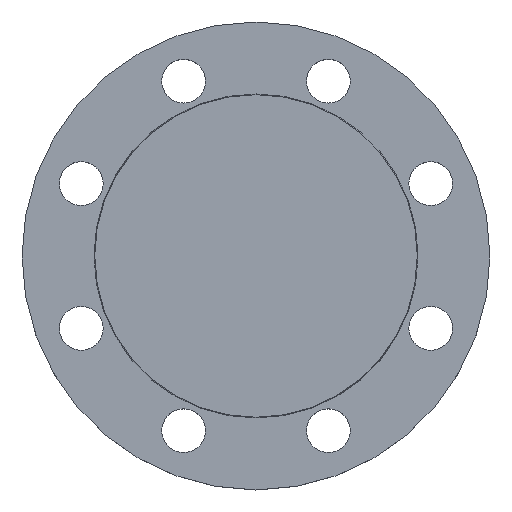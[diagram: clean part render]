
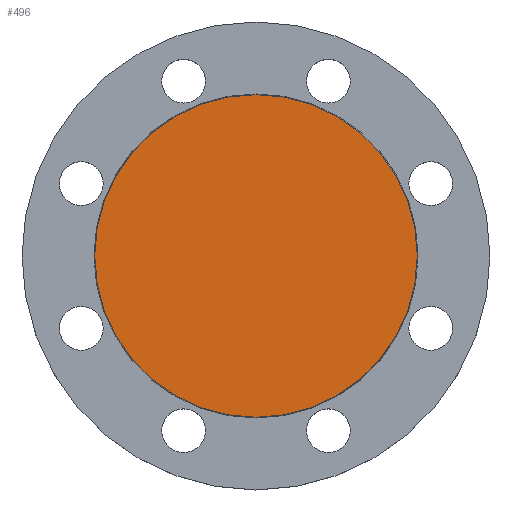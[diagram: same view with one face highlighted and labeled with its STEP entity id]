
A CAD part, top view. The second image highlights one B-rep face of the part: STEP entity #496.
In plain terms, the highlighted planar face has unit normal (0, 0, 1).
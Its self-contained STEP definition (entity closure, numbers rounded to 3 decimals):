
#90 = CARTESIAN_POINT ( 'NONE',  ( -81., 0., 0. ) ) ;
#103 = CIRCLE ( 'NONE', #587, 81. ) ;
#203 = CARTESIAN_POINT ( 'NONE',  ( 81., 0., 0. ) ) ;
#225 = CIRCLE ( 'NONE', #537, 81. ) ;
#242 = ORIENTED_EDGE ( 'NONE', *, *, #291, .F. ) ;
#246 = EDGE_CURVE ( 'NONE', #818, #917, #225, .T. ) ;
#257 = CARTESIAN_POINT ( 'NONE',  ( 0., 0., 0. ) ) ;
#264 = DIRECTION ( 'NONE',  ( 0., 0., -1. ) ) ;
#269 = DIRECTION ( 'NONE',  ( -1., 0., 0. ) ) ;
#291 = EDGE_CURVE ( 'NONE', #917, #818, #103, .T. ) ;
#369 = CARTESIAN_POINT ( 'NONE',  ( 0., 0., 0. ) ) ;
#374 = DIRECTION ( 'NONE',  ( 0., 0., -1. ) ) ;
#380 = DIRECTION ( 'NONE',  ( -1., 0., 0. ) ) ;
#496 = ADVANCED_FACE ( 'NONE', ( #597 ), #599, .T. ) ;
#537 = AXIS2_PLACEMENT_3D ( 'NONE', #257, #264, #269 ) ;
#560 = ORIENTED_EDGE ( 'NONE', *, *, #246, .F. ) ;
#587 = AXIS2_PLACEMENT_3D ( 'NONE', #369, #374, #380 ) ;
#597 = FACE_OUTER_BOUND ( 'NONE', #692, .T. ) ;
#599 = PLANE ( 'NONE',  #823 ) ;
#601 = CARTESIAN_POINT ( 'NONE',  ( 0., 0., 0. ) ) ;
#602 = DIRECTION ( 'NONE',  ( 0., 0., 1. ) ) ;
#604 = DIRECTION ( 'NONE',  ( 1., 0., 0. ) ) ;
#692 = EDGE_LOOP ( 'NONE', ( #242, #560 ) ) ;
#818 = VERTEX_POINT ( 'NONE', #203 ) ;
#823 = AXIS2_PLACEMENT_3D ( 'NONE', #601, #602, #604 ) ;
#917 = VERTEX_POINT ( 'NONE', #90 ) ;
